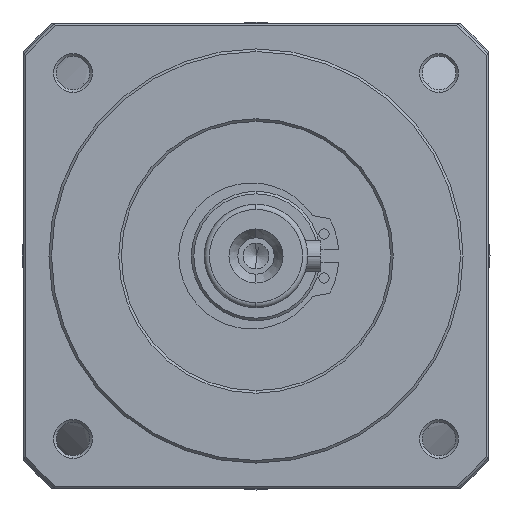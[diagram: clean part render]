
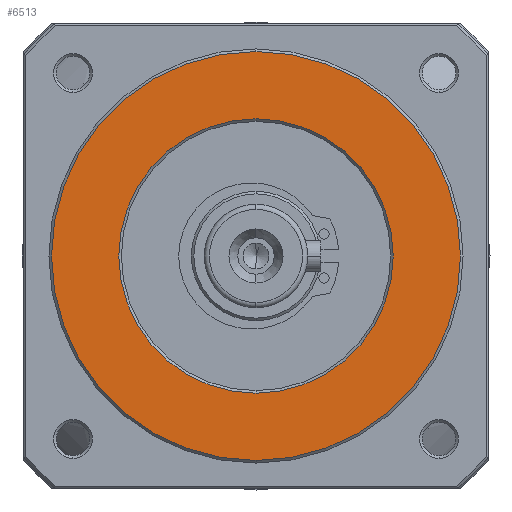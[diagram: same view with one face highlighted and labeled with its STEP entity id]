
A CAD part, left-side view. The second image highlights one B-rep face of the part: STEP entity #6513.
In plain terms, the highlighted planar face has unit normal (-1, 0, 0).
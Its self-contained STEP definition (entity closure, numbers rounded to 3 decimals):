
#15 = EDGE_CURVE ( 'NONE', #3218, #3778, #12383, .T. ) ;
#1137 = CARTESIAN_POINT ( 'NONE',  ( 37.5, 26., 0. ) ) ;
#1666 = CARTESIAN_POINT ( 'NONE',  ( 37.5, 0., -39.5 ) ) ;
#1749 = DIRECTION ( 'NONE',  ( 1., 0., 0. ) ) ;
#1771 = DIRECTION ( 'NONE',  ( 0., 0., 1. ) ) ;
#1850 = VERTEX_POINT ( 'NONE', #2110 ) ;
#1996 = AXIS2_PLACEMENT_3D ( 'NONE', #8559, #4306, #1771 ) ;
#2110 = CARTESIAN_POINT ( 'NONE',  ( 37.5, 0., 26.5 ) ) ;
#2129 = AXIS2_PLACEMENT_3D ( 'NONE', #1137, #6405, #3254 ) ;
#3218 = VERTEX_POINT ( 'NONE', #3522 ) ;
#3254 = DIRECTION ( 'NONE',  ( 0., 0., -1. ) ) ;
#3522 = CARTESIAN_POINT ( 'NONE',  ( 37.5, 0., 39.5 ) ) ;
#3778 = VERTEX_POINT ( 'NONE', #1666 ) ;
#3993 = FACE_BOUND ( 'NONE', #7907, .T. ) ;
#4002 = DIRECTION ( 'NONE',  ( 1., 0., 0. ) ) ;
#4306 = DIRECTION ( 'NONE',  ( -1., 0., 0. ) ) ;
#4431 = ORIENTED_EDGE ( 'NONE', *, *, #6663, .T. ) ;
#5765 = CARTESIAN_POINT ( 'NONE',  ( 37.5, 0., 0. ) ) ;
#6124 = CARTESIAN_POINT ( 'NONE',  ( 37.5, 0., -26.5 ) ) ;
#6184 = ORIENTED_EDGE ( 'NONE', *, *, #6283, .T. ) ;
#6283 = EDGE_CURVE ( 'NONE', #1850, #8367, #12662, .T. ) ;
#6405 = DIRECTION ( 'NONE',  ( 1., 0., 0. ) ) ;
#6513 = ADVANCED_FACE ( 'NONE', ( #3993, #11503 ), #9649, .F. ) ;
#6663 = EDGE_CURVE ( 'NONE', #3778, #3218, #9831, .T. ) ;
#6816 = EDGE_CURVE ( 'NONE', #8367, #1850, #9310, .T. ) ;
#6833 = DIRECTION ( 'NONE',  ( 0., 0., 1. ) ) ;
#7791 = ORIENTED_EDGE ( 'NONE', *, *, #15, .T. ) ;
#7907 = EDGE_LOOP ( 'NONE', ( #6184, #12604 ) ) ;
#8144 = CARTESIAN_POINT ( 'NONE',  ( 37.5, 0., 0. ) ) ;
#8367 = VERTEX_POINT ( 'NONE', #6124 ) ;
#8559 = CARTESIAN_POINT ( 'NONE',  ( 37.5, 0., 0. ) ) ;
#9056 = AXIS2_PLACEMENT_3D ( 'NONE', #10413, #4002, #11468 ) ;
#9226 = DIRECTION ( 'NONE',  ( 0., 0., -1. ) ) ;
#9310 = CIRCLE ( 'NONE', #9056, 26.5 ) ;
#9649 = PLANE ( 'NONE',  #2129 ) ;
#9831 = CIRCLE ( 'NONE', #10765, 39.5 ) ;
#10413 = CARTESIAN_POINT ( 'NONE',  ( 37.5, 0., 0. ) ) ;
#10631 = EDGE_LOOP ( 'NONE', ( #4431, #7791 ) ) ;
#10765 = AXIS2_PLACEMENT_3D ( 'NONE', #5765, #13226, #6833 ) ;
#11468 = DIRECTION ( 'NONE',  ( 0., 0., -1. ) ) ;
#11503 = FACE_OUTER_BOUND ( 'NONE', #10631, .T. ) ;
#12383 = CIRCLE ( 'NONE', #1996, 39.5 ) ;
#12604 = ORIENTED_EDGE ( 'NONE', *, *, #6816, .T. ) ;
#12662 = CIRCLE ( 'NONE', #13431, 26.5 ) ;
#13226 = DIRECTION ( 'NONE',  ( -1., 0., 0. ) ) ;
#13431 = AXIS2_PLACEMENT_3D ( 'NONE', #8144, #1749, #9226 ) ;
